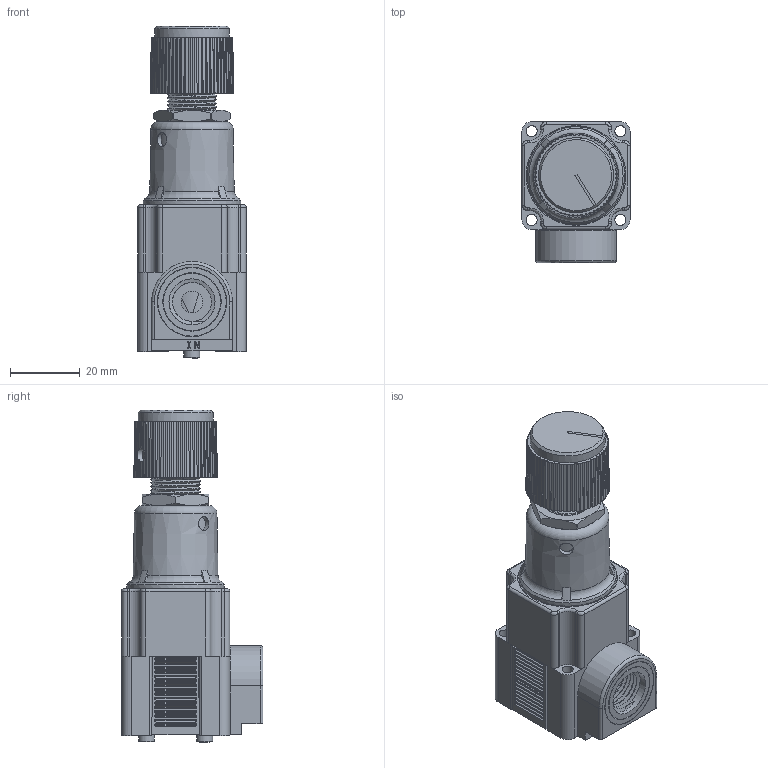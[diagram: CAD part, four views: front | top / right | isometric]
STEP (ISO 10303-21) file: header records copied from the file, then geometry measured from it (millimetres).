
FILE_DESCRIPTION(/* description */ (''),/* implementation_level */ '2;1');
FILE_NAME(/* name */ 'K:\Normteile INVENTOR\Air-Logic\Regulators\R6000\R 6___ 2 1''4-18 NPT Threads In.igs.ipt.stp',/* time_stamp */ '2020-05-27T10:56:56+02:00',/* author */ ('Paul'),/* organization */ (''),/* preprocessor_version */ 'ST-DEVELOPER v18',/* originating_system */ 'Autodesk Inventor 2020',/* authorisation */ '');
FILE_SCHEMA (('AUTOMOTIVE_DESIGN { 1 0 10303 214 3 1 1 }'));
Length unit declared in the file: inch
Products named in the file (1): R 6___ 2 1'4-18 NPT Threads In.igs
Bounding box: 31.19 x 40.56 x 95.02 mm (x, y, z)
Volume: 59455.5 mm3; surface area: 18848.3 mm2
Topology: 1 solids, 1 shells, 990 faces, 2570 edges, 1657 vertices
Faces by surface type: plane 490, cylinder 362, cone 83, torus 30, bspline 25
Full cylindrical faces by diameter (mm): 1.194 x1, 2.032 x1, 3.124 x2, 3.175 x8, 3.988 x1, 4.064 x1, 4.521 x2, 6.223 x1, 6.248 x1, 8.382 x2, 11.163 x6, 13.208 x6, 16.408 x1, 16.717 x1, 19.406 x1, 19.612 x1, 19.825 x1, 21.476 x1, 27.94 x1, 28.575 x1
Entity records: 38244 total; most frequent: CARTESIAN_POINT 12443, DIRECTION 5382, ORIENTED_EDGE 5140, EDGE_CURVE 2570, AXIS2_PLACEMENT_3D 2072, VERTEX_POINT 1657, LINE 1238, VECTOR 1238
